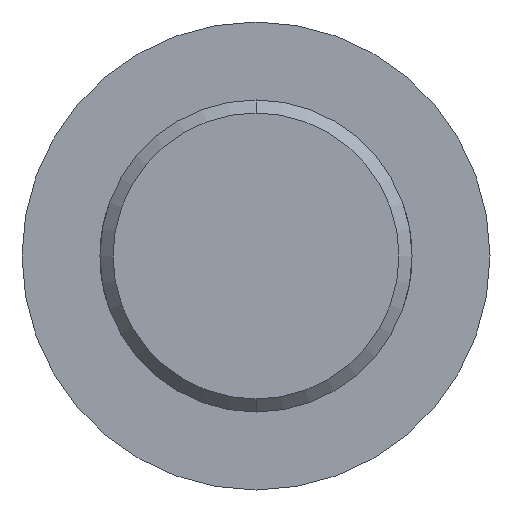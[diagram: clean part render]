
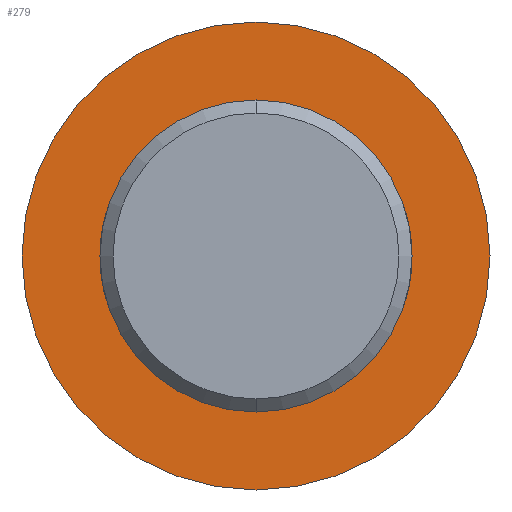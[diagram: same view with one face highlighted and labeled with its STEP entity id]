
A CAD part, front view. The second image highlights one B-rep face of the part: STEP entity #279.
In plain terms, the highlighted planar face has unit normal (0, -1, 0).
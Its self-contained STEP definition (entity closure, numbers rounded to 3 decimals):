
#5 = DIRECTION ( 'NONE',  ( 0., 0., 1. ) ) ;
#12 = ORIENTED_EDGE ( 'NONE', *, *, #172, .F. ) ;
#20 = EDGE_CURVE ( 'NONE', #206, #173, #50, .T. ) ;
#50 = CIRCLE ( 'NONE', #377, 4.5 ) ;
#58 = AXIS2_PLACEMENT_3D ( 'NONE', #199, #368, #267 ) ;
#61 = EDGE_CURVE ( 'NONE', #418, #161, #178, .T. ) ;
#85 = CARTESIAN_POINT ( 'NONE',  ( 0., 0., -4.5 ) ) ;
#96 = FACE_OUTER_BOUND ( 'NONE', #152, .T. ) ;
#103 = PLANE ( 'NONE',  #270 ) ;
#104 = AXIS2_PLACEMENT_3D ( 'NONE', #291, #257, #451 ) ;
#113 = DIRECTION ( 'NONE',  ( 0., 0., -1. ) ) ;
#123 = CARTESIAN_POINT ( 'NONE',  ( 0., 0., 0. ) ) ;
#152 = EDGE_LOOP ( 'NONE', ( #268, #12 ) ) ;
#161 = VERTEX_POINT ( 'NONE', #301 ) ;
#172 = EDGE_CURVE ( 'NONE', #173, #206, #445, .T. ) ;
#173 = VERTEX_POINT ( 'NONE', #364 ) ;
#178 = CIRCLE ( 'NONE', #465, 3. ) ;
#199 = CARTESIAN_POINT ( 'NONE',  ( 0., 0., 0. ) ) ;
#200 = DIRECTION ( 'NONE',  ( 0., 1., 0. ) ) ;
#206 = VERTEX_POINT ( 'NONE', #85 ) ;
#241 = DIRECTION ( 'NONE',  ( 0., 0., 1. ) ) ;
#243 = EDGE_CURVE ( 'NONE', #161, #418, #306, .T. ) ;
#244 = DIRECTION ( 'NONE',  ( 0., 1., 0. ) ) ;
#257 = DIRECTION ( 'NONE',  ( 0., -1., 0. ) ) ;
#267 = DIRECTION ( 'NONE',  ( 0., 0., 1. ) ) ;
#268 = ORIENTED_EDGE ( 'NONE', *, *, #20, .F. ) ;
#270 = AXIS2_PLACEMENT_3D ( 'NONE', #274, #244, #241 ) ;
#274 = CARTESIAN_POINT ( 'NONE',  ( 0., 0., 0. ) ) ;
#279 = ADVANCED_FACE ( 'NONE', ( #430, #96 ), #103, .F. ) ;
#288 = CARTESIAN_POINT ( 'NONE',  ( 0., 0., 3. ) ) ;
#291 = CARTESIAN_POINT ( 'NONE',  ( 0., 0., 0. ) ) ;
#301 = CARTESIAN_POINT ( 'NONE',  ( 0., 0., -3. ) ) ;
#306 = CIRCLE ( 'NONE', #104, 3. ) ;
#318 = ORIENTED_EDGE ( 'NONE', *, *, #61, .F. ) ;
#349 = EDGE_LOOP ( 'NONE', ( #318, #378 ) ) ;
#359 = DIRECTION ( 'NONE',  ( 0., -1., 0. ) ) ;
#364 = CARTESIAN_POINT ( 'NONE',  ( 0., 0., 4.5 ) ) ;
#368 = DIRECTION ( 'NONE',  ( 0., 1., 0. ) ) ;
#377 = AXIS2_PLACEMENT_3D ( 'NONE', #123, #200, #5 ) ;
#378 = ORIENTED_EDGE ( 'NONE', *, *, #243, .F. ) ;
#418 = VERTEX_POINT ( 'NONE', #288 ) ;
#430 = FACE_BOUND ( 'NONE', #349, .T. ) ;
#445 = CIRCLE ( 'NONE', #58, 4.5 ) ;
#451 = DIRECTION ( 'NONE',  ( 0., 0., -1. ) ) ;
#465 = AXIS2_PLACEMENT_3D ( 'NONE', #477, #359, #113 ) ;
#477 = CARTESIAN_POINT ( 'NONE',  ( 0., 0., 0. ) ) ;
